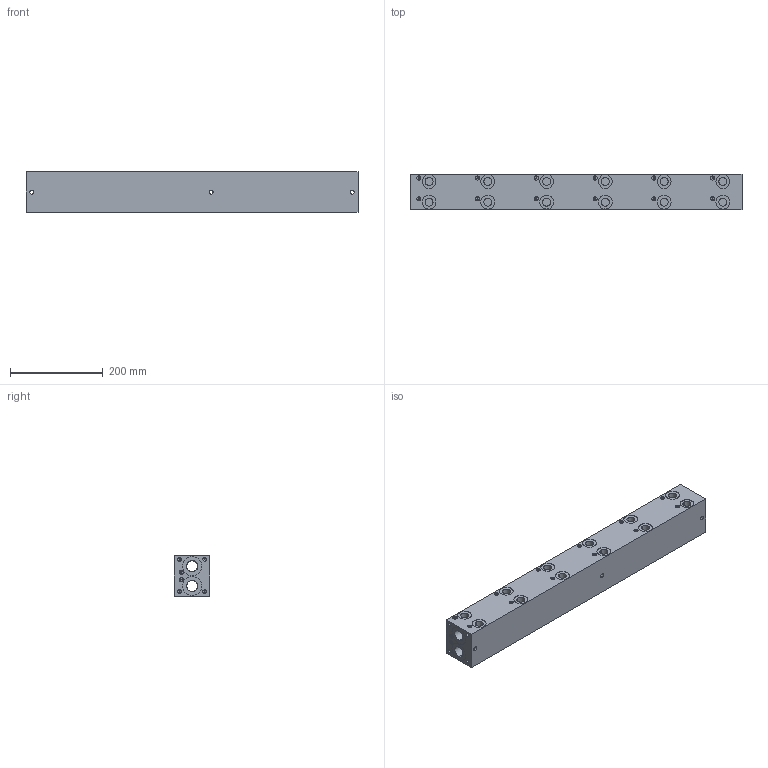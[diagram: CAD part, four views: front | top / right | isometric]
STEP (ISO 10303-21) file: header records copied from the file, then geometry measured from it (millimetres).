
FILE_DESCRIPTION (( 'STEP AP203' ), '1' );
FILE_NAME ('BM-ASP05S5-06-1_Z.STEP', '2015-01-06T16:12:27', ( '' ), ( '' ), 'SwSTEP 2.0', 'SolidWorks 2014', '' );
FILE_SCHEMA (( 'CONFIG_CONTROL_DESIGN' ));
Length unit declared in the file: inch
Products named in the file (1): BM-ASP05S5-06-1_Z
Bounding box: 717.55 x 76.71 x 88.04 mm (x, y, z)
Volume: 4135396.5 mm3; surface area: 387329.7 mm2
Topology: 1 solids, 1 shells, 775 faces, 1856 edges, 1144 vertices
Faces by surface type: plane 317, cylinder 272, cone 112, bspline 74
Entity records: 25905 total; most frequent: CARTESIAN_POINT 8394, DIRECTION 3544, ORIENTED_EDGE 3488, EDGE_CURVE 1744, AXIS2_PLACEMENT_3D 1246, VERTEX_POINT 1144, LINE 1052, VECTOR 1052
